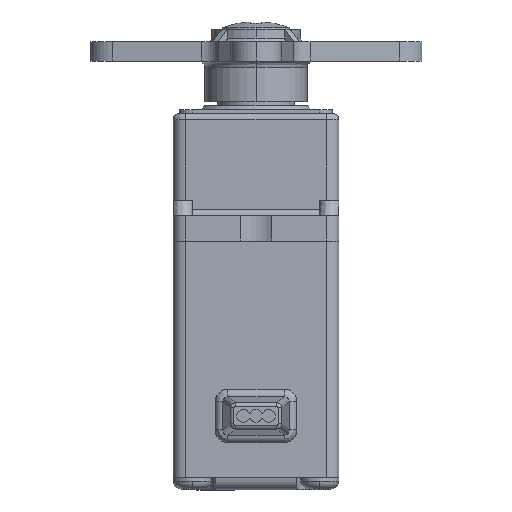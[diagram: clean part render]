
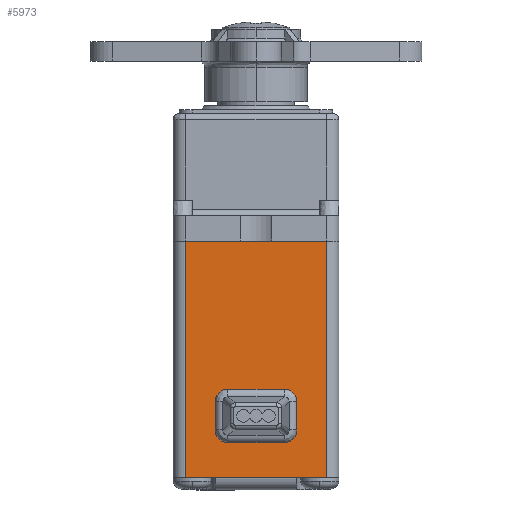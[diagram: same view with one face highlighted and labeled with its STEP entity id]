
A CAD part, front view. The second image highlights one B-rep face of the part: STEP entity #5973.
In plain terms, the highlighted planar face has unit normal (0, -1, 0).
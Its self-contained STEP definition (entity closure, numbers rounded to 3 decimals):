
#230 = CARTESIAN_POINT ( 'NONE',  ( 5., -7.5, -28.8 ) ) ;
#248 = LINE ( 'NONE', #5960, #7727 ) ;
#291 = CIRCLE ( 'NONE', #1275, 1. ) ;
#387 = CARTESIAN_POINT ( 'NONE',  ( 2.2, -7.5, -22.9 ) ) ;
#454 = DIRECTION ( 'NONE',  ( 0., 0., -1. ) ) ;
#506 = LINE ( 'NONE', #5036, #7385 ) ;
#720 = CARTESIAN_POINT ( 'NONE',  ( -5.5, -7.5, -28.8 ) ) ;
#775 = DIRECTION ( 'NONE',  ( 0., 0., -1. ) ) ;
#832 = ORIENTED_EDGE ( 'NONE', *, *, #6228, .T. ) ;
#838 = DIRECTION ( 'NONE',  ( 1., 0., 0. ) ) ;
#1102 = ORIENTED_EDGE ( 'NONE', *, *, #9288, .T. ) ;
#1140 = VECTOR ( 'NONE', #6280, 1000. ) ;
#1159 = VECTOR ( 'NONE', #9000, 1000. ) ;
#1190 = EDGE_CURVE ( 'NONE', #1648, #11785, #6403, .T. ) ;
#1275 = AXIS2_PLACEMENT_3D ( 'NONE', #10986, #7272, #775 ) ;
#1422 = DIRECTION ( 'NONE',  ( 1., 0., 0. ) ) ;
#1492 = ORIENTED_EDGE ( 'NONE', *, *, #9862, .T. ) ;
#1618 = AXIS2_PLACEMENT_3D ( 'NONE', #10905, #9865, #454 ) ;
#1626 = VECTOR ( 'NONE', #5314, 1000. ) ;
#1648 = VERTEX_POINT ( 'NONE', #1947 ) ;
#1947 = CARTESIAN_POINT ( 'NONE',  ( -5.5, -7.5, -10.3 ) ) ;
#1955 = CARTESIAN_POINT ( 'NONE',  ( 0., -7.5, -28.8 ) ) ;
#1981 = CARTESIAN_POINT ( 'NONE',  ( -3.2, -7.5, -25.1 ) ) ;
#2195 = DIRECTION ( 'NONE',  ( 0., 1., 0. ) ) ;
#2376 = VERTEX_POINT ( 'NONE', #8248 ) ;
#2385 = CARTESIAN_POINT ( 'NONE',  ( -5.5, -7.5, -28.8 ) ) ;
#2404 = CARTESIAN_POINT ( 'NONE',  ( 5.5, -7.5, -28.8 ) ) ;
#2548 = DIRECTION ( 'NONE',  ( -1., 0., 0. ) ) ;
#2695 = EDGE_LOOP ( 'NONE', ( #7345, #1102, #12096, #3035, #5552, #3884, #10244, #9223 ) ) ;
#2745 = EDGE_CURVE ( 'NONE', #1648, #9965, #506, .T. ) ;
#2759 = EDGE_LOOP ( 'NONE', ( #9473, #5543, #4644, #1492, #3022, #5992, #3699, #832 ) ) ;
#2845 = LINE ( 'NONE', #6622, #3948 ) ;
#3022 = ORIENTED_EDGE ( 'NONE', *, *, #6448, .T. ) ;
#3035 = ORIENTED_EDGE ( 'NONE', *, *, #8151, .T. ) ;
#3163 = LINE ( 'NONE', #6930, #1626 ) ;
#3215 = EDGE_CURVE ( 'NONE', #7692, #4827, #3163, .T. ) ;
#3268 = EDGE_CURVE ( 'NONE', #10791, #6252, #3980, .T. ) ;
#3475 = EDGE_CURVE ( 'NONE', #9965, #8044, #8625, .T. ) ;
#3515 = LINE ( 'NONE', #720, #6520 ) ;
#3699 = ORIENTED_EDGE ( 'NONE', *, *, #6575, .T. ) ;
#3884 = ORIENTED_EDGE ( 'NONE', *, *, #1190, .F. ) ;
#3948 = VECTOR ( 'NONE', #11370, 1000. ) ;
#3980 = CIRCLE ( 'NONE', #7726, 1. ) ;
#4095 = CARTESIAN_POINT ( 'NONE',  ( -5.5, -7.5, -21.9 ) ) ;
#4292 = EDGE_CURVE ( 'NONE', #11785, #10671, #5518, .T. ) ;
#4381 = CARTESIAN_POINT ( 'NONE',  ( 3.2, -7.5, -25.1 ) ) ;
#4423 = CARTESIAN_POINT ( 'NONE',  ( -2.2, -7.5, -26.1 ) ) ;
#4534 = DIRECTION ( 'NONE',  ( 0., 0., -1. ) ) ;
#4644 = ORIENTED_EDGE ( 'NONE', *, *, #10377, .T. ) ;
#4827 = VERTEX_POINT ( 'NONE', #230 ) ;
#4853 = DIRECTION ( 'NONE',  ( 0., -1., 0. ) ) ;
#5036 = CARTESIAN_POINT ( 'NONE',  ( -5.5, -7.5, -23. ) ) ;
#5314 = DIRECTION ( 'NONE',  ( 1., 0., 0. ) ) ;
#5518 = LINE ( 'NONE', #8297, #9786 ) ;
#5543 = ORIENTED_EDGE ( 'NONE', *, *, #10802, .T. ) ;
#5552 = ORIENTED_EDGE ( 'NONE', *, *, #4292, .F. ) ;
#5730 = DIRECTION ( 'NONE',  ( 1., 0., 0. ) ) ;
#5960 = CARTESIAN_POINT ( 'NONE',  ( 3.2, -7.5, -23.1 ) ) ;
#5973 = ADVANCED_FACE ( 'NONE', ( #10599, #7811 ), #6770, .T. ) ;
#5975 = VECTOR ( 'NONE', #5730, 1000. ) ;
#5992 = ORIENTED_EDGE ( 'NONE', *, *, #3268, .T. ) ;
#6025 = DIRECTION ( 'NONE',  ( 1., 0., 0. ) ) ;
#6077 = VERTEX_POINT ( 'NONE', #4423 ) ;
#6090 = CARTESIAN_POINT ( 'NONE',  ( -3.2, -7.5, -28.8 ) ) ;
#6128 = LINE ( 'NONE', #7108, #6764 ) ;
#6228 = EDGE_CURVE ( 'NONE', #6077, #7573, #11879, .T. ) ;
#6252 = VERTEX_POINT ( 'NONE', #11262 ) ;
#6280 = DIRECTION ( 'NONE',  ( 1., 0., 0. ) ) ;
#6403 = LINE ( 'NONE', #9312, #1140 ) ;
#6420 = DIRECTION ( 'NONE',  ( 0., 0., -1. ) ) ;
#6448 = EDGE_CURVE ( 'NONE', #2376, #10791, #248, .T. ) ;
#6520 = VECTOR ( 'NONE', #838, 1000. ) ;
#6536 = CARTESIAN_POINT ( 'NONE',  ( 2.2, -7.5, -25.1 ) ) ;
#6575 = EDGE_CURVE ( 'NONE', #6252, #6077, #8169, .T. ) ;
#6622 = CARTESIAN_POINT ( 'NONE',  ( -5.5, -7.5, -28.8 ) ) ;
#6764 = VECTOR ( 'NONE', #1422, 1000. ) ;
#6770 = PLANE ( 'NONE',  #8333 ) ;
#6822 = DIRECTION ( 'NONE',  ( 0., 0., -1. ) ) ;
#6930 = CARTESIAN_POINT ( 'NONE',  ( 0., -7.5, -28.8 ) ) ;
#6937 = EDGE_CURVE ( 'NONE', #8044, #8886, #6128, .T. ) ;
#6943 = LINE ( 'NONE', #4095, #12129 ) ;
#7108 = CARTESIAN_POINT ( 'NONE',  ( -5.5, -7.5, -28.8 ) ) ;
#7272 = DIRECTION ( 'NONE',  ( 0., 1., 0. ) ) ;
#7345 = ORIENTED_EDGE ( 'NONE', *, *, #6937, .T. ) ;
#7353 = VECTOR ( 'NONE', #2548, 1000. ) ;
#7385 = VECTOR ( 'NONE', #6822, 1000. ) ;
#7573 = VERTEX_POINT ( 'NONE', #1981 ) ;
#7692 = VERTEX_POINT ( 'NONE', #10084 ) ;
#7726 = AXIS2_PLACEMENT_3D ( 'NONE', #6536, #10246, #6420 ) ;
#7727 = VECTOR ( 'NONE', #9726, 1000. ) ;
#7743 = DIRECTION ( 'NONE',  ( 0., 0., -1. ) ) ;
#7811 = FACE_OUTER_BOUND ( 'NONE', #2695, .T. ) ;
#8044 = VERTEX_POINT ( 'NONE', #10010 ) ;
#8151 = EDGE_CURVE ( 'NONE', #4827, #10671, #3515, .T. ) ;
#8169 = LINE ( 'NONE', #9850, #7353 ) ;
#8178 = VERTEX_POINT ( 'NONE', #9205 ) ;
#8248 = CARTESIAN_POINT ( 'NONE',  ( 3.2, -7.5, -22.9 ) ) ;
#8297 = CARTESIAN_POINT ( 'NONE',  ( 5.5, -7.5, -23. ) ) ;
#8333 = AXIS2_PLACEMENT_3D ( 'NONE', #8812, #4853, #7743 ) ;
#8625 = LINE ( 'NONE', #1955, #5975 ) ;
#8658 = AXIS2_PLACEMENT_3D ( 'NONE', #387, #2195, #9807 ) ;
#8677 = LINE ( 'NONE', #11520, #1159 ) ;
#8799 = CARTESIAN_POINT ( 'NONE',  ( -2.2, -7.5, -21.9 ) ) ;
#8812 = CARTESIAN_POINT ( 'NONE',  ( -5.5, -7.5, -23. ) ) ;
#8874 = CARTESIAN_POINT ( 'NONE',  ( -3.2, -7.5, -22.9 ) ) ;
#8886 = VERTEX_POINT ( 'NONE', #6090 ) ;
#8915 = CARTESIAN_POINT ( 'NONE',  ( 5.5, -7.5, -10.3 ) ) ;
#9000 = DIRECTION ( 'NONE',  ( 0., 0., 1. ) ) ;
#9205 = CARTESIAN_POINT ( 'NONE',  ( 2.2, -7.5, -21.9 ) ) ;
#9223 = ORIENTED_EDGE ( 'NONE', *, *, #3475, .T. ) ;
#9288 = EDGE_CURVE ( 'NONE', #8886, #7692, #2845, .T. ) ;
#9312 = CARTESIAN_POINT ( 'NONE',  ( -6.5, -7.5, -10.3 ) ) ;
#9473 = ORIENTED_EDGE ( 'NONE', *, *, #9978, .T. ) ;
#9726 = DIRECTION ( 'NONE',  ( 0., 0., -1. ) ) ;
#9786 = VECTOR ( 'NONE', #4534, 1000. ) ;
#9807 = DIRECTION ( 'NONE',  ( 0., 0., -1. ) ) ;
#9850 = CARTESIAN_POINT ( 'NONE',  ( -5.5, -7.5, -26.1 ) ) ;
#9862 = EDGE_CURVE ( 'NONE', #8178, #2376, #10444, .T. ) ;
#9865 = DIRECTION ( 'NONE',  ( 0., 1., 0. ) ) ;
#9942 = VERTEX_POINT ( 'NONE', #8874 ) ;
#9965 = VERTEX_POINT ( 'NONE', #2385 ) ;
#9978 = EDGE_CURVE ( 'NONE', #7573, #9942, #8677, .T. ) ;
#10010 = CARTESIAN_POINT ( 'NONE',  ( -5., -7.5, -28.8 ) ) ;
#10084 = CARTESIAN_POINT ( 'NONE',  ( 3.2, -7.5, -28.8 ) ) ;
#10244 = ORIENTED_EDGE ( 'NONE', *, *, #2745, .T. ) ;
#10246 = DIRECTION ( 'NONE',  ( 0., 1., 0. ) ) ;
#10296 = VERTEX_POINT ( 'NONE', #8799 ) ;
#10377 = EDGE_CURVE ( 'NONE', #10296, #8178, #6943, .T. ) ;
#10444 = CIRCLE ( 'NONE', #8658, 1. ) ;
#10599 = FACE_BOUND ( 'NONE', #2759, .T. ) ;
#10671 = VERTEX_POINT ( 'NONE', #2404 ) ;
#10791 = VERTEX_POINT ( 'NONE', #4381 ) ;
#10802 = EDGE_CURVE ( 'NONE', #9942, #10296, #291, .T. ) ;
#10905 = CARTESIAN_POINT ( 'NONE',  ( -2.2, -7.5, -25.1 ) ) ;
#10986 = CARTESIAN_POINT ( 'NONE',  ( -2.2, -7.5, -22.9 ) ) ;
#11262 = CARTESIAN_POINT ( 'NONE',  ( 2.2, -7.5, -26.1 ) ) ;
#11370 = DIRECTION ( 'NONE',  ( 1., 0., 0. ) ) ;
#11520 = CARTESIAN_POINT ( 'NONE',  ( -3.2, -7.5, -23.1 ) ) ;
#11785 = VERTEX_POINT ( 'NONE', #8915 ) ;
#11879 = CIRCLE ( 'NONE', #1618, 1. ) ;
#12096 = ORIENTED_EDGE ( 'NONE', *, *, #3215, .T. ) ;
#12129 = VECTOR ( 'NONE', #6025, 1000. ) ;
